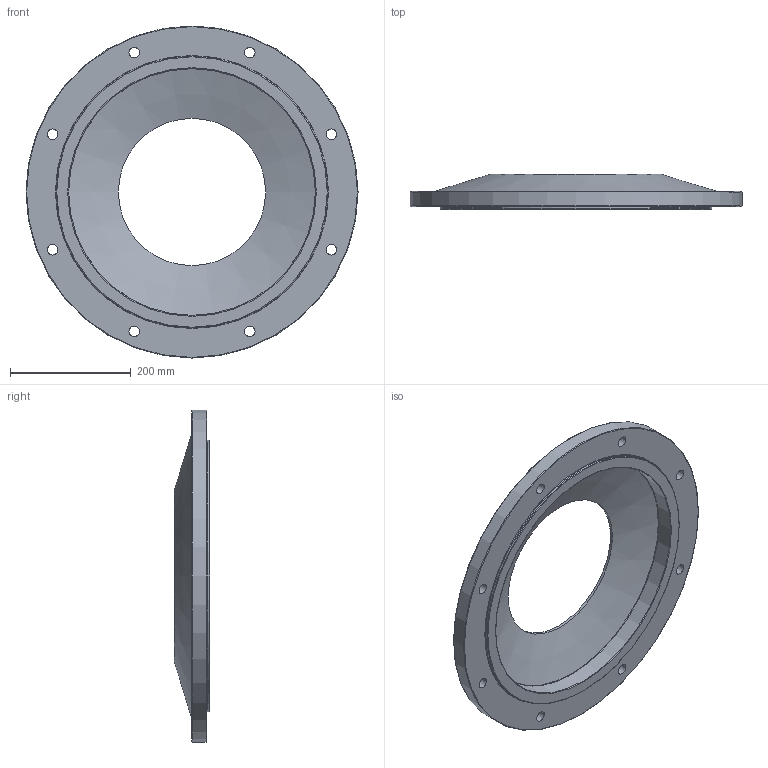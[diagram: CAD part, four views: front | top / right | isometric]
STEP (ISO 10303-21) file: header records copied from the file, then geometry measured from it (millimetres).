
FILE_DESCRIPTION((''),'2;1');
FILE_NAME('D:\PAWEŁ\ZLECENIA\DualSystem\001 Modele\DKAB120_\DK_120_STEP\AF_F_120.stp','2011-12-19T15:36:21',('Pawe'),(''),'Autodesk Inventor 2009','Autodesk Inventor 2009','');
FILE_SCHEMA(('AUTOMOTIVE_DESIGN { 1 0 10303 214 1 1 1 1 }'));
Length unit declared in the file: millimetre
Products named in the file (1): AF_F_120
Bounding box: 550 x 58.5 x 550 mm (x, y, z)
Volume: 3753713.8 mm3; surface area: 484828.2 mm2
Topology: 1 solids, 1 shells, 25 faces, 62 edges, 41 vertices
Faces by surface type: bspline 11, plane 4, torus 4, cylinder 4, cone 2
Full cylindrical faces by diameter (mm): 244 x1, 410 x1, 450 x1, 550 x1
Entity records: 852 total; most frequent: CARTESIAN_POINT 342, DIRECTION 96, ORIENTED_EDGE 66, EDGE_LOOP 66, AXIS2_PLACEMENT_3D 48, FACE_BOUND 41, VERTEX_POINT 33, CIRCLE 33
